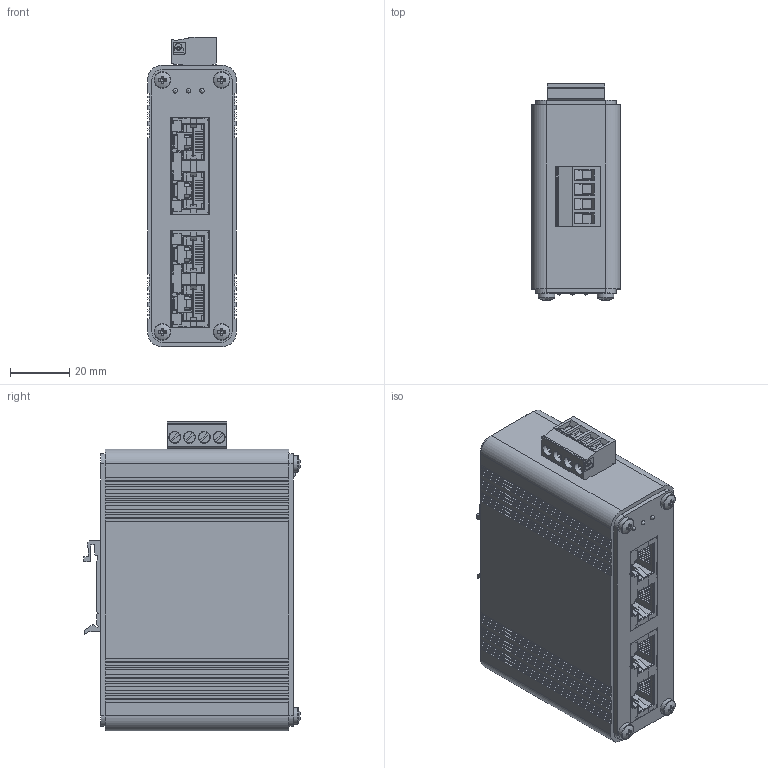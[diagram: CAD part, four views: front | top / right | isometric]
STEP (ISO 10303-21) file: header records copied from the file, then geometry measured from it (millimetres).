
FILE_DESCRIPTION(/* description */ (''),/* implementation_level */ '2;1');
FILE_NAME(/* name */ 'II-NA-0200-0004 v4.step',/* time_stamp */ '2024-10-01T10:35:17+02:00',/* author */ (''),/* organization */ (''),/* preprocessor_version */ 'ST-DEVELOPER v20',/* originating_system */ 'Autodesk Translation Framework v13.20.0.188',/* authorisation */ '');
FILE_SCHEMA (('AUTOMOTIVE_DESIGN { 1 0 10303 214 3 1 1 }'));
Length unit declared in the file: millimetre
Products named in the file (6): II-NA-0200-0004; Digitus_DN-651107_LAN-Switch 19.5mm; LED; 3M Screw; 2 ports ethernet vertical; POWER
Assembly tree (11 placements, depth 2):
  II-NA-0200-0004
    LED  x3
    Digitus_DN-651107_LAN-Switch 19.5mm
    3M Screw  x4
    2 ports ethernet vertical  x2
    POWER
Bounding box: 30 x 73.06 x 104.4 mm (x, y, z)
Volume: 31824.8 mm3; surface area: 59961.4 mm2
Topology: 12 solids, 12 shells, 2485 faces, 7037 edges, 4531 vertices
Faces by surface type: plane 2189, cylinder 234, cone 47, torus 8, sphere 4, bspline 3
Full cylindrical faces by diameter (mm): 0.434 x1, 0.609 x1, 1.4 x4, 1.5 x6, 2.08 x3, 3 x8, 3.783 x4, 4 x4, 5.6 x4
Entity records: 49581 total; most frequent: CARTESIAN_POINT 8776, ORIENTED_EDGE 8628, DIRECTION 7834, EDGE_CURVE 4314, LINE 3850, VECTOR 3850, VERTEX_POINT 2775, AXIS2_PLACEMENT_3D 1992
